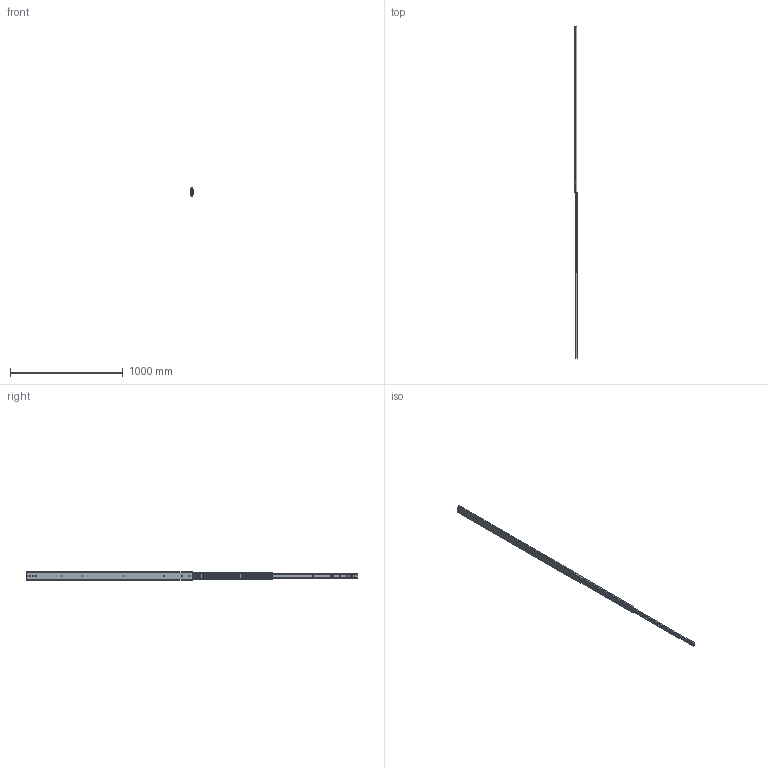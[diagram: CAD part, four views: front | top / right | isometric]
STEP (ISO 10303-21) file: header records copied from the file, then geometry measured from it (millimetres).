
FILE_DESCRIPTION(/* description */ ('Unknown'),/* implementation_level */ '2;1');
FILE_NAME(/* name */ '76J01-58 open',/* time_stamp */ '2024-07-30T13:15:11+08:00',/* author */ ('Unknown'),/* organization */ ('Unknown'),/* preprocessor_version */ 'ST-DEVELOPER v18.104',/* originating_system */ 'Solid Edge',/* authorisation */ 'Unknown');
FILE_SCHEMA (('AUTOMOTIVE_DESIGN {1 0 10303 214 3 1 1}'));
Length unit declared in the file: millimetre
Products named in the file (4): 76J01-58 open; 76J01 58 inch 內_0; 76J01 58 吋中_; 76J01 58 吋
Assembly tree (3 placements, depth 2):
  76J01-58 open
    76J01 58 inch 內_0
    76J01 58 吋中_
    76J01 58 吋
Bounding box: 19.3 x 2945.7 x 76.72 mm (x, y, z)
Volume: 1164856.8 mm3; surface area: 724061.8 mm2
Topology: 3 solids, 3 shells, 196 faces, 606 edges, 410 vertices
Faces by surface type: plane 104, cylinder 92
Full cylindrical faces by diameter (mm): 5.2 x16, 7.1 x2
Entity records: 7179 total; most frequent: CARTESIAN_POINT 1168, DIRECTION 1152, ORIENTED_EDGE 1140, EDGE_CURVE 570, VERTEX_POINT 392, LINE 384, VECTOR 384, AXIS2_PLACEMENT_3D 384
